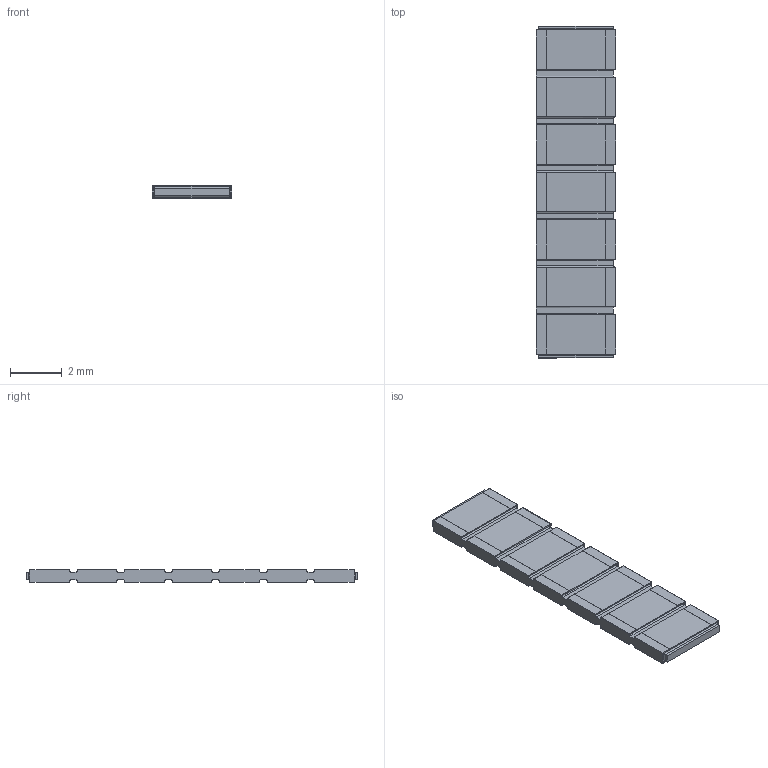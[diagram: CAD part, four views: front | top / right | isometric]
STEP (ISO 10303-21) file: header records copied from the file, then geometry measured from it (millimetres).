
FILE_DESCRIPTION(/* description */ (''),/* implementation_level */ '2;1');
FILE_NAME(/* name */ 'S:\DOCUMENT\AUTOCAD\3D_Modèles\10_3D-pour-VISHAY-COM\PRA\PRA182\PRA182-C2_à_C8\10_IGES\PRA182C7_B-or-N-or-G.stp',/* time_stamp */ '2017-12-19T09:07:51+01:00',/* author */ ('dparmentier'),/* organization */ ('unknown'),/* preprocessor_version */ 'ST-DEVELOPER v17',/* originating_system */ 'Autodesk Inventor 2018',/* authorisation */ '');
FILE_SCHEMA (('AUTOMOTIVE_DESIGN { 1 0 10303 214 3 1 1 }'));
Length unit declared in the file: millimetre
Products named in the file (1): PRA182C7_B-or-N-or-G
Bounding box: 3.06 x 12.78 x 0.5 mm (x, y, z)
Volume: 18 mm3; surface area: 154.2 mm2
Topology: 9 solids, 9 shells, 284 faces, 760 edges, 496 vertices
Faces by surface type: plane 216, cylinder 68
Entity records: 8777 total; most frequent: CARTESIAN_POINT 1541, ORIENTED_EDGE 1520, DIRECTION 1434, EDGE_CURVE 760, LINE 656, VECTOR 656, VERTEX_POINT 496, AXIS2_PLACEMENT_3D 389
